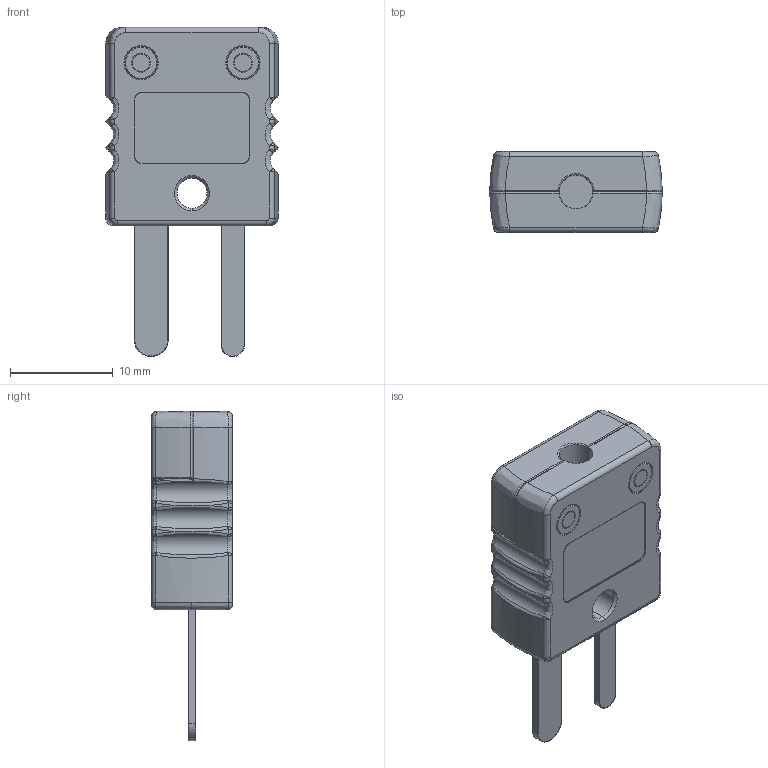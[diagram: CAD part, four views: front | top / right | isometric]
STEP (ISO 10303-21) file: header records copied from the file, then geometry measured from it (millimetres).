
FILE_DESCRIPTION (( 'STEP AP203' ), '1' );
FILE_NAME ('112153.stp', '2018-02-08T22:23:44', ( '' ), ( '' ), 'SwSTEP 2.0', 'SolidWorks 2012', '' );
FILE_SCHEMA (( 'CONFIG_CONTROL_DESIGN' ));
Length unit declared in the file: centimetre
Products named in the file (1): 112153
Bounding box: 16.76 x 7.94 x 32 mm (x, y, z)
Volume: 2334.1 mm3; surface area: 1935.7 mm2
Topology: 1 solids, 5 shells, 489 faces, 1178 edges, 686 vertices
Faces by surface type: cylinder 163, bspline 151, plane 125, cone 50
Entity records: 25896 total; most frequent: CARTESIAN_POINT 15922, ORIENTED_EDGE 2304, DIRECTION 1670, EDGE_CURVE 1152, VERTEX_POINT 686, AXIS2_PLACEMENT_3D 615, EDGE_LOOP 512, FACE_OUTER_BOUND 489
